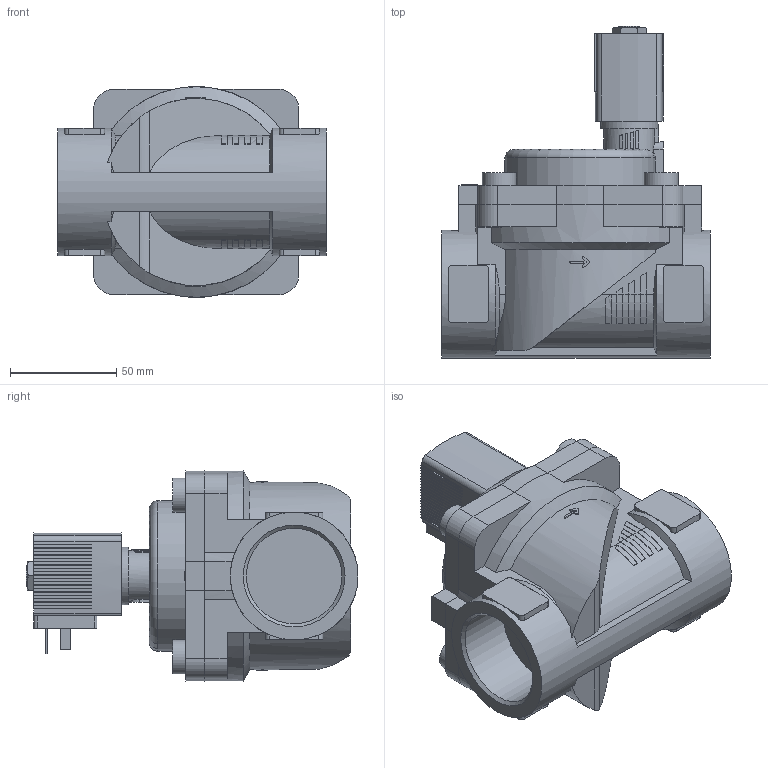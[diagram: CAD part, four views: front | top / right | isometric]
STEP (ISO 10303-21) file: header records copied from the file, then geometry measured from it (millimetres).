
FILE_DESCRIPTION(/* description */ ('STEP AP214'),/* implementation_level */ '2;1');
FILE_NAME(/* name */ '6281-360528-2_2-Way_Solenoid_Valve__Servo-assisted__General_Purpose',/* time_stamp */ '2024-09-04T15:44:19+02:00',/* author */ ('License CC BY-ND 4.0'),/* organization */ ('CADENAS'),/* preprocessor_version */ 'ST-DEVELOPER v19.3',/* originating_system */ 'PARTsolutions',/* authorisation */ ' ');
FILE_SCHEMA (('AUTOMOTIVE_DESIGN {1 0 10303 214 3 1 1}'));
Length unit declared in the file: millimetre
Products named in the file (4): 6281-360528-2/2-Way Solenoid Valve, Servo-assisted, General Purpose; 5281ev400VA2/2-Wege-Magnetventil mit Servomembran-Deckel 99 ; 6213-40G1_1/2VA-Gehaeuse-; AC10ex-5OO-Plan-Coil
Assembly tree (3 placements, depth 2):
  6281-360528-2/2-Way Solenoid Valve, Servo-assisted, General Purpose
    5281ev400VA2/2-Wege-Magnetventil mit Servomembran-Deckel 99 
    6213-40G1_1/2VA-Gehaeuse-
    AC10ex-5OO-Plan-Coil
Bounding box: 126 x 156 x 99 mm (x, y, z)
Volume: 682674.2 mm3; surface area: 93459.6 mm2
Topology: 3 solids, 3 shells, 555 faces, 1550 edges, 1028 vertices
Faces by surface type: plane 443, cylinder 94, cone 17, torus 1
Full cylindrical faces by diameter (mm): 2.013 x1, 9.74 x1, 16 x4, 27 x1, 44.845 x2, 60 x1
Entity records: 20416 total; most frequent: CARTESIAN_POINT 3388, ORIENTED_EDGE 3052, DIRECTION 2886, EDGE_CURVE 1526, LINE 1134, VECTOR 1134, VERTEX_POINT 1020, AXIS2_PLACEMENT_3D 876
